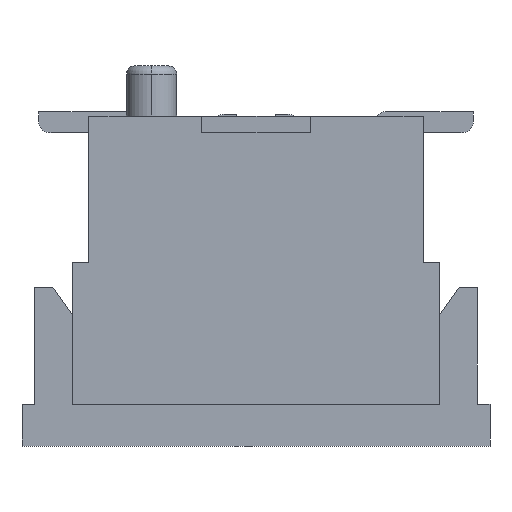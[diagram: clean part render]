
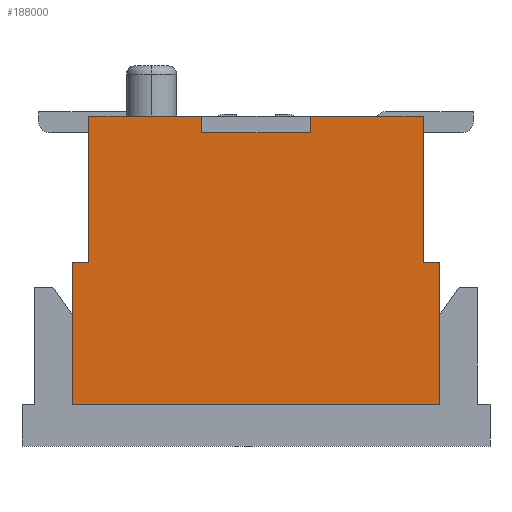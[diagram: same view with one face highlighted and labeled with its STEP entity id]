
A CAD part, left-side view. The second image highlights one B-rep face of the part: STEP entity #188000.
In plain terms, the highlighted planar face has unit normal (-1, 0, 0).
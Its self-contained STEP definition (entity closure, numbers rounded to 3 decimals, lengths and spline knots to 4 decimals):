
#1545 = VERTEX_POINT ( 'NONE', #139999 ) ;
#2208 = LINE ( 'NONE', #57316, #109462 ) ;
#9953 = EDGE_CURVE ( 'NONE', #34999, #212204, #221708, .T. ) ;
#9974 = VECTOR ( 'NONE', #165573, 1000. ) ;
#14864 = EDGE_CURVE ( 'NONE', #179632, #233619, #73401, .T. ) ;
#17566 = DIRECTION ( 'NONE',  ( 0., 1., 0. ) ) ;
#18674 = CARTESIAN_POINT ( 'NONE',  ( -32.95, 0., 0. ) ) ;
#19077 = CARTESIAN_POINT ( 'NONE',  ( -32.95, 1.325, 3.45 ) ) ;
#20437 = LINE ( 'NONE', #57150, #66955 ) ;
#20516 = DIRECTION ( 'NONE',  ( 0., 0., -1. ) ) ;
#21627 = DIRECTION ( 'NONE',  ( 0., 0., -1. ) ) ;
#27924 = VECTOR ( 'NONE', #147068, 1000. ) ;
#31196 = VECTOR ( 'NONE', #65440, 1000. ) ;
#32268 = CARTESIAN_POINT ( 'NONE',  ( -32.95, -1.325, 3.45 ) ) ;
#32634 = EDGE_CURVE ( 'NONE', #199887, #104256, #20437, .T. ) ;
#34196 = DIRECTION ( 'NONE',  ( 0., -1., 0. ) ) ;
#34406 = CARTESIAN_POINT ( 'NONE',  ( -32.95, 2.1, 1.7 ) ) ;
#34999 = VERTEX_POINT ( 'NONE', #89430 ) ;
#46294 = VECTOR ( 'NONE', #203099, 1000. ) ;
#50572 = DIRECTION ( 'NONE',  ( 0., 1., 0. ) ) ;
#51964 = VERTEX_POINT ( 'NONE', #226395 ) ;
#52863 = CARTESIAN_POINT ( 'NONE',  ( -32.95, 2., 2.575 ) ) ;
#52974 = DIRECTION ( 'NONE',  ( -1., 0., 0. ) ) ;
#55266 = VECTOR ( 'NONE', #20516, 1000. ) ;
#56349 = CARTESIAN_POINT ( 'NONE',  ( -32.95, -2.2, 1.7 ) ) ;
#57150 = CARTESIAN_POINT ( 'NONE',  ( -32.95, -2.2, 0.85 ) ) ;
#57316 = CARTESIAN_POINT ( 'NONE',  ( -32.95, 2.2, 0.85 ) ) ;
#62585 = VECTOR ( 'NONE', #102718, 1000. ) ;
#65440 = DIRECTION ( 'NONE',  ( 0., 0., -1. ) ) ;
#66955 = VECTOR ( 'NONE', #21627, 1000. ) ;
#69167 = ORIENTED_EDGE ( 'NONE', *, *, #9953, .F. ) ;
#69367 = CARTESIAN_POINT ( 'NONE',  ( -32.95, -2., 1.7 ) ) ;
#71941 = ORIENTED_EDGE ( 'NONE', *, *, #208540, .T. ) ;
#73401 = LINE ( 'NONE', #220246, #46294 ) ;
#75317 = EDGE_CURVE ( 'NONE', #51964, #93322, #2208, .T. ) ;
#80324 = CARTESIAN_POINT ( 'NONE',  ( -32.95, 0.65, 3.25 ) ) ;
#88056 = CARTESIAN_POINT ( 'NONE',  ( -32.95, -0.65, 3.25 ) ) ;
#89430 = CARTESIAN_POINT ( 'NONE',  ( -32.95, 2., 1.7 ) ) ;
#92351 = CARTESIAN_POINT ( 'NONE',  ( -32.95, 2., 3.45 ) ) ;
#93108 = DIRECTION ( 'NONE',  ( 0., -1., 0. ) ) ;
#93322 = VERTEX_POINT ( 'NONE', #141371 ) ;
#94044 = DIRECTION ( 'NONE',  ( 0., 0., 1. ) ) ;
#102718 = DIRECTION ( 'NONE',  ( 0., 1., 0. ) ) ;
#102772 = CARTESIAN_POINT ( 'NONE',  ( -32.95, 0.65, 3.45 ) ) ;
#104256 = VERTEX_POINT ( 'NONE', #116614 ) ;
#109462 = VECTOR ( 'NONE', #94044, 1000. ) ;
#115519 = VERTEX_POINT ( 'NONE', #88056 ) ;
#116614 = CARTESIAN_POINT ( 'NONE',  ( -32.95, -2.2, 0. ) ) ;
#121065 = CARTESIAN_POINT ( 'NONE',  ( -32.95, 0., 0. ) ) ;
#128778 = EDGE_CURVE ( 'NONE', #104256, #51964, #176147, .T. ) ;
#131851 = LINE ( 'NONE', #206497, #55266 ) ;
#132412 = VECTOR ( 'NONE', #146356, 1000. ) ;
#134262 = EDGE_CURVE ( 'NONE', #1545, #179632, #163169, .T. ) ;
#136864 = ORIENTED_EDGE ( 'NONE', *, *, #167095, .T. ) ;
#139999 = CARTESIAN_POINT ( 'NONE',  ( -32.95, -0.65, 3.45 ) ) ;
#141371 = CARTESIAN_POINT ( 'NONE',  ( -32.95, 2.2, 1.7 ) ) ;
#146356 = DIRECTION ( 'NONE',  ( 0., -1., 0. ) ) ;
#147068 = DIRECTION ( 'NONE',  ( 0., 0., 1. ) ) ;
#147976 = CARTESIAN_POINT ( 'NONE',  ( -32.95, -2.1, 1.7 ) ) ;
#148468 = VECTOR ( 'NONE', #17566, 1000. ) ;
#148506 = CARTESIAN_POINT ( 'NONE',  ( -32.95, 0., 3.25 ) ) ;
#149836 = EDGE_CURVE ( 'NONE', #212204, #192922, #203870, .T. ) ;
#162956 = EDGE_CURVE ( 'NONE', #93322, #34999, #241172, .T. ) ;
#163169 = LINE ( 'NONE', #32268, #9974 ) ;
#163903 = ORIENTED_EDGE ( 'NONE', *, *, #75317, .F. ) ;
#164341 = FACE_OUTER_BOUND ( 'NONE', #194107, .T. ) ;
#165573 = DIRECTION ( 'NONE',  ( 0., -1., 0. ) ) ;
#167095 = EDGE_CURVE ( 'NONE', #1545, #115519, #131851, .T. ) ;
#175324 = ORIENTED_EDGE ( 'NONE', *, *, #238596, .F. ) ;
#176147 = LINE ( 'NONE', #121065, #62585 ) ;
#179110 = ORIENTED_EDGE ( 'NONE', *, *, #14864, .F. ) ;
#179632 = VERTEX_POINT ( 'NONE', #187498 ) ;
#179700 = VECTOR ( 'NONE', #34196, 1000. ) ;
#183493 = LINE ( 'NONE', #147976, #179700 ) ;
#184516 = AXIS2_PLACEMENT_3D ( 'NONE', #18674, #52974, #50572 ) ;
#187498 = CARTESIAN_POINT ( 'NONE',  ( -32.95, -2., 3.45 ) ) ;
#188000 = ADVANCED_FACE ( 'NONE', ( #164341 ), #218208, .T. ) ;
#192922 = VERTEX_POINT ( 'NONE', #102772 ) ;
#193560 = ORIENTED_EDGE ( 'NONE', *, *, #209943, .F. ) ;
#194107 = EDGE_LOOP ( 'NONE', ( #195328, #136864, #71941, #175324, #211356, #69167, #208866, #163903, #241382, #219449, #193560, #179110 ) ) ;
#195328 = ORIENTED_EDGE ( 'NONE', *, *, #134262, .F. ) ;
#198775 = LINE ( 'NONE', #235485, #31196 ) ;
#199887 = VERTEX_POINT ( 'NONE', #56349 ) ;
#203099 = DIRECTION ( 'NONE',  ( 0., 0., -1. ) ) ;
#203870 = LINE ( 'NONE', #19077, #132412 ) ;
#206497 = CARTESIAN_POINT ( 'NONE',  ( -32.95, -0.65, 3.35 ) ) ;
#208540 = EDGE_CURVE ( 'NONE', #115519, #227218, #224316, .T. ) ;
#208866 = ORIENTED_EDGE ( 'NONE', *, *, #162956, .F. ) ;
#209943 = EDGE_CURVE ( 'NONE', #233619, #199887, #183493, .T. ) ;
#211356 = ORIENTED_EDGE ( 'NONE', *, *, #149836, .F. ) ;
#211496 = VECTOR ( 'NONE', #93108, 1000. ) ;
#212204 = VERTEX_POINT ( 'NONE', #92351 ) ;
#218208 = PLANE ( 'NONE',  #184516 ) ;
#219449 = ORIENTED_EDGE ( 'NONE', *, *, #32634, .F. ) ;
#220246 = CARTESIAN_POINT ( 'NONE',  ( -32.95, -2., 2.575 ) ) ;
#221708 = LINE ( 'NONE', #52863, #27924 ) ;
#224316 = LINE ( 'NONE', #148506, #148468 ) ;
#226395 = CARTESIAN_POINT ( 'NONE',  ( -32.95, 2.2, 0. ) ) ;
#227218 = VERTEX_POINT ( 'NONE', #80324 ) ;
#233619 = VERTEX_POINT ( 'NONE', #69367 ) ;
#235485 = CARTESIAN_POINT ( 'NONE',  ( -32.95, 0.65, 3.35 ) ) ;
#238596 = EDGE_CURVE ( 'NONE', #192922, #227218, #198775, .T. ) ;
#241172 = LINE ( 'NONE', #34406, #211496 ) ;
#241382 = ORIENTED_EDGE ( 'NONE', *, *, #128778, .F. ) ;
